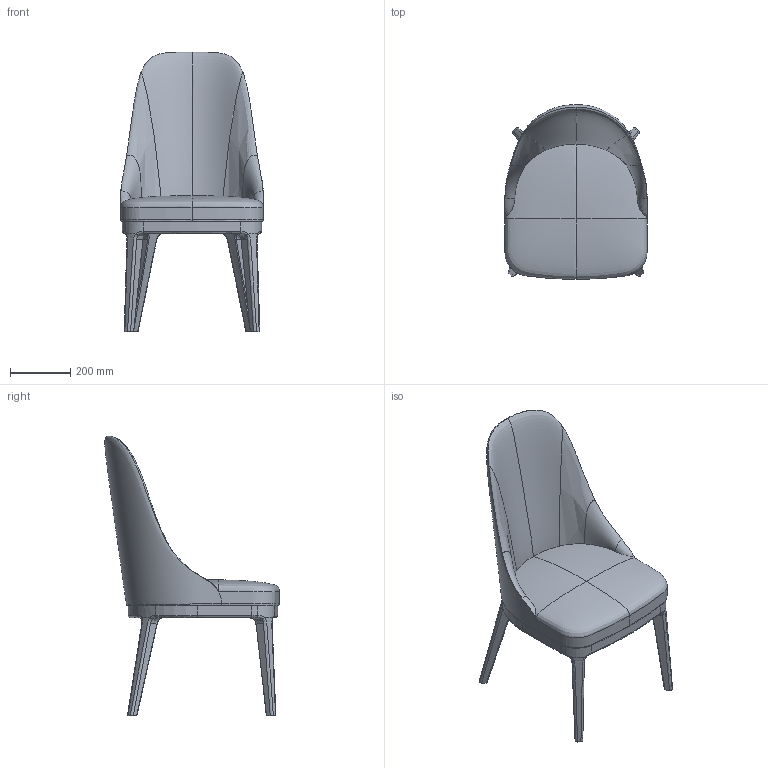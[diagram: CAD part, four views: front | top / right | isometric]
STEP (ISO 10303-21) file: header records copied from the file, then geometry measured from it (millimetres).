
FILE_DESCRIPTION(/* description */ (''),/* implementation_level */ '2;1');
FILE_NAME(/* name */ 'KINOSH~1',/* time_stamp */ '2019-07-19T19:06:47+09:00',/* author */ (''),/* organization */ (''),/* preprocessor_version */ 'ST-DEVELOPER v15',/* originating_system */ '',/* authorisation */ '');
FILE_SCHEMA (('AUTOMOTIVE_DESIGN'));
Length unit declared in the file: millimetre
Products named in the file (1): Document
Bounding box: 470 x 577.18 x 925 mm (x, y, z)
Volume: 2775627.8 mm3; surface area: 1407683.1 mm2
Topology: 6 solids, 9 shells, 151 faces, 375 edges, 238 vertices
Faces by surface type: bspline 112, plane 39
Entity records: 91805 total; most frequent: CARTESIAN_POINT 89509, ORIENTED_EDGE 740, EDGE_CURVE 375, B_SPLINE_CURVE_WITH_KNOTS 262, VERTEX_POINT 238, ADVANCED_FACE 151, FACE_OUTER_BOUND 151, EDGE_LOOP 151
